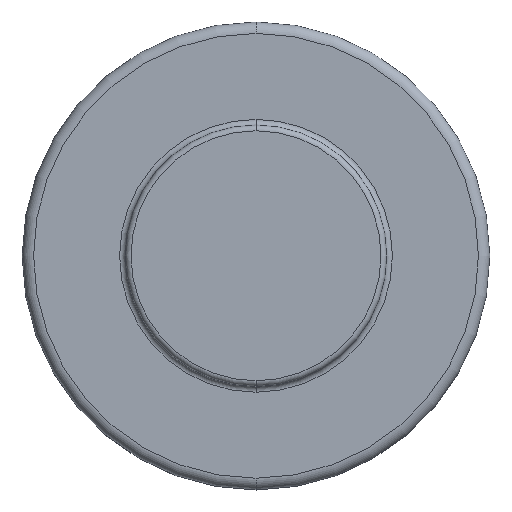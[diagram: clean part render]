
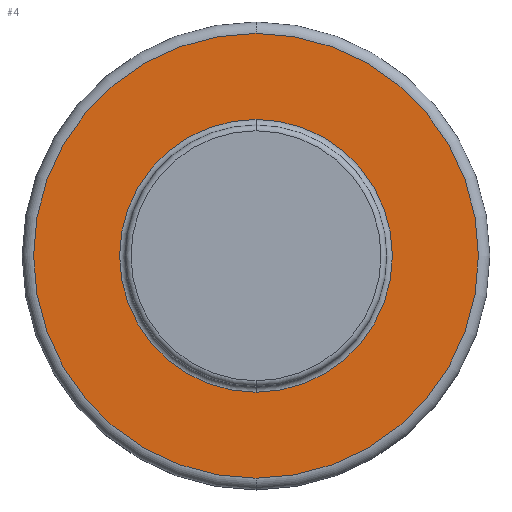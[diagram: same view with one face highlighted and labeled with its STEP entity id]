
A CAD part, top view. The second image highlights one B-rep face of the part: STEP entity #4.
In plain terms, the highlighted planar face has unit normal (0, 0, 1).
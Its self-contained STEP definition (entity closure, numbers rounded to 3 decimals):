
#4 = ADVANCED_FACE ( 'NONE', ( #416, #952 ), #932, .F. ) ;
#33 = CARTESIAN_POINT ( 'NONE',  ( 0., 36.449, 28.575 ) ) ;
#41 = CIRCLE ( 'NONE', #249, 59.436 ) ;
#70 = EDGE_CURVE ( 'NONE', #255, #75, #407, .T. ) ;
#72 = ORIENTED_EDGE ( 'NONE', *, *, #837, .F. ) ;
#75 = VERTEX_POINT ( 'NONE', #355 ) ;
#137 = CARTESIAN_POINT ( 'NONE',  ( 0., 0., 28.575 ) ) ;
#153 = EDGE_CURVE ( 'NONE', #75, #255, #41, .T. ) ;
#176 = CIRCLE ( 'NONE', #597, 36.449 ) ;
#226 = DIRECTION ( 'NONE',  ( 0., 0., 1. ) ) ;
#231 = AXIS2_PLACEMENT_3D ( 'NONE', #137, #226, #527 ) ;
#247 = CARTESIAN_POINT ( 'NONE',  ( 0., 59.436, 28.575 ) ) ;
#249 = AXIS2_PLACEMENT_3D ( 'NONE', #885, #292, #809 ) ;
#255 = VERTEX_POINT ( 'NONE', #247 ) ;
#259 = DIRECTION ( 'NONE',  ( 0., 0., -1. ) ) ;
#274 = ORIENTED_EDGE ( 'NONE', *, *, #70, .T. ) ;
#292 = DIRECTION ( 'NONE',  ( 0., 0., 1. ) ) ;
#305 = CARTESIAN_POINT ( 'NONE',  ( 0., 0., 28.575 ) ) ;
#351 = ORIENTED_EDGE ( 'NONE', *, *, #502, .F. ) ;
#355 = CARTESIAN_POINT ( 'NONE',  ( 0., -59.436, 28.575 ) ) ;
#390 = AXIS2_PLACEMENT_3D ( 'NONE', #305, #751, #598 ) ;
#407 = CIRCLE ( 'NONE', #390, 59.436 ) ;
#416 = FACE_BOUND ( 'NONE', #481, .T. ) ;
#432 = VERTEX_POINT ( 'NONE', #855 ) ;
#481 = EDGE_LOOP ( 'NONE', ( #351, #72 ) ) ;
#502 = EDGE_CURVE ( 'NONE', #620, #432, #653, .T. ) ;
#527 = DIRECTION ( 'NONE',  ( 0., -1., 0. ) ) ;
#565 = ORIENTED_EDGE ( 'NONE', *, *, #153, .T. ) ;
#597 = AXIS2_PLACEMENT_3D ( 'NONE', #954, #600, #733 ) ;
#598 = DIRECTION ( 'NONE',  ( 0., -1., 0. ) ) ;
#600 = DIRECTION ( 'NONE',  ( 0., 0., 1. ) ) ;
#620 = VERTEX_POINT ( 'NONE', #850 ) ;
#653 = CIRCLE ( 'NONE', #231, 36.449 ) ;
#699 = EDGE_LOOP ( 'NONE', ( #565, #274 ) ) ;
#733 = DIRECTION ( 'NONE',  ( 0., -1., 0. ) ) ;
#751 = DIRECTION ( 'NONE',  ( 0., 0., 1. ) ) ;
#809 = DIRECTION ( 'NONE',  ( 0., -1., 0. ) ) ;
#837 = EDGE_CURVE ( 'NONE', #432, #620, #176, .T. ) ;
#850 = CARTESIAN_POINT ( 'NONE',  ( 0., -36.449, 28.575 ) ) ;
#853 = DIRECTION ( 'NONE',  ( 0., 1., 0. ) ) ;
#855 = CARTESIAN_POINT ( 'NONE',  ( 0., 36.449, 28.575 ) ) ;
#885 = CARTESIAN_POINT ( 'NONE',  ( 0., 0., 28.575 ) ) ;
#924 = AXIS2_PLACEMENT_3D ( 'NONE', #33, #259, #853 ) ;
#932 = PLANE ( 'NONE',  #924 ) ;
#952 = FACE_OUTER_BOUND ( 'NONE', #699, .T. ) ;
#954 = CARTESIAN_POINT ( 'NONE',  ( 0., 0., 28.575 ) ) ;
